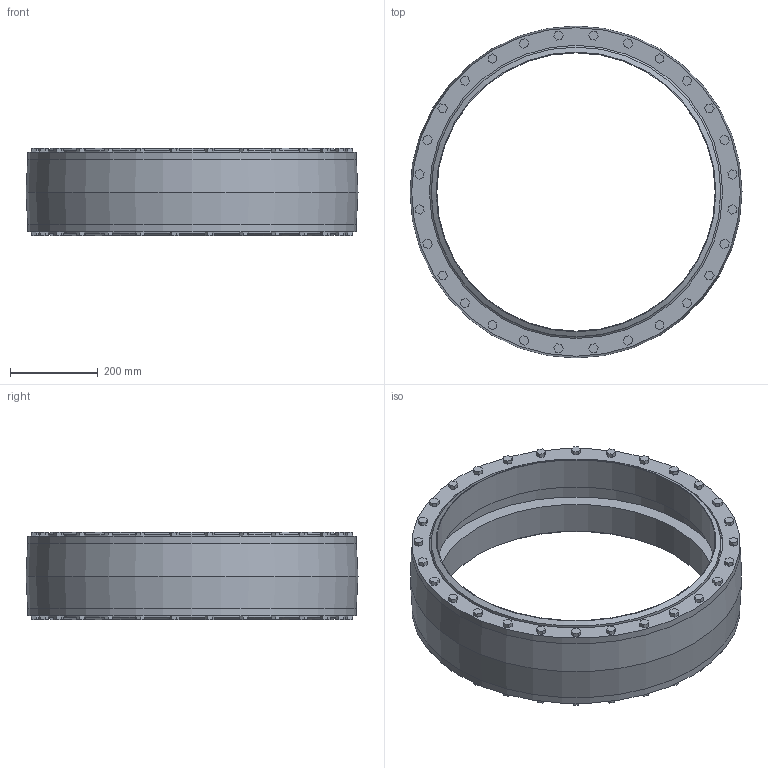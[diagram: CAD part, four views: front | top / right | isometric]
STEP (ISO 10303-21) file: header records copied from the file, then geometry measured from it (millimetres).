
FILE_DESCRIPTION(/* description */ ('VIC EXPANSION JOINT COUPLING 152-A','CAx-IF Rec.Pracs.---Representation and Presentation of Product Manufacturing Information (PMI)---4.0---2014-10-13'),/* implementation_level */ '2;1');
FILE_NAME(/* name */ 'C:\Users\kkamble\AppData\Roaming\Autodesk\ApplicationPlugins\Back Up\Victaulic_Vic-Ring_Coupling Expansion Joint_Style 152A (OGR)\Victaulic_Vic-Ring_Coupling Expansion Joint_Style 152A (OGR)_26 (650).stp',/* time_stamp */ '2020-09-10T11:34:20+05:00',/* author */ ('jheald'),/* organization */ ('Victaulic'),/* preprocessor_version */ 'ST-DEVELOPER v17.2',/* originating_system */ 'Autodesk Inventor 2019',/* authorisation */ '');
FILE_SCHEMA (('AP242_MANAGED_MODEL_BASED_3D_ENGINEERING_MIM_LF { 1 0 10303 442 1 1 4 }'));
Length unit declared in the file: inch
Products named in the file (1): 152A-26.0
Bounding box: 757.18 x 757.18 x 200.15 mm (x, y, z)
Volume: 19346034.3 mm3; surface area: 1949310.2 mm2
Topology: 1 solids, 1 shells, 429 faces, 1107 edges, 748 vertices
Faces by surface type: plane 406, cylinder 15, cone 6, torus 2
Full cylindrical faces by diameter (mm): 635 x2, 660.4 x2, 668.528 x2, 674.878 x2, 695.452 x4, 698.5 x1, 749.3 x2
Entity records: 13480 total; most frequent: CARTESIAN_POINT 2302, ORIENTED_EDGE 2214, DIRECTION 2071, EDGE_CURVE 1107, LINE 1029, VECTOR 1029, VERTEX_POINT 748, AXIS2_PLACEMENT_3D 521
